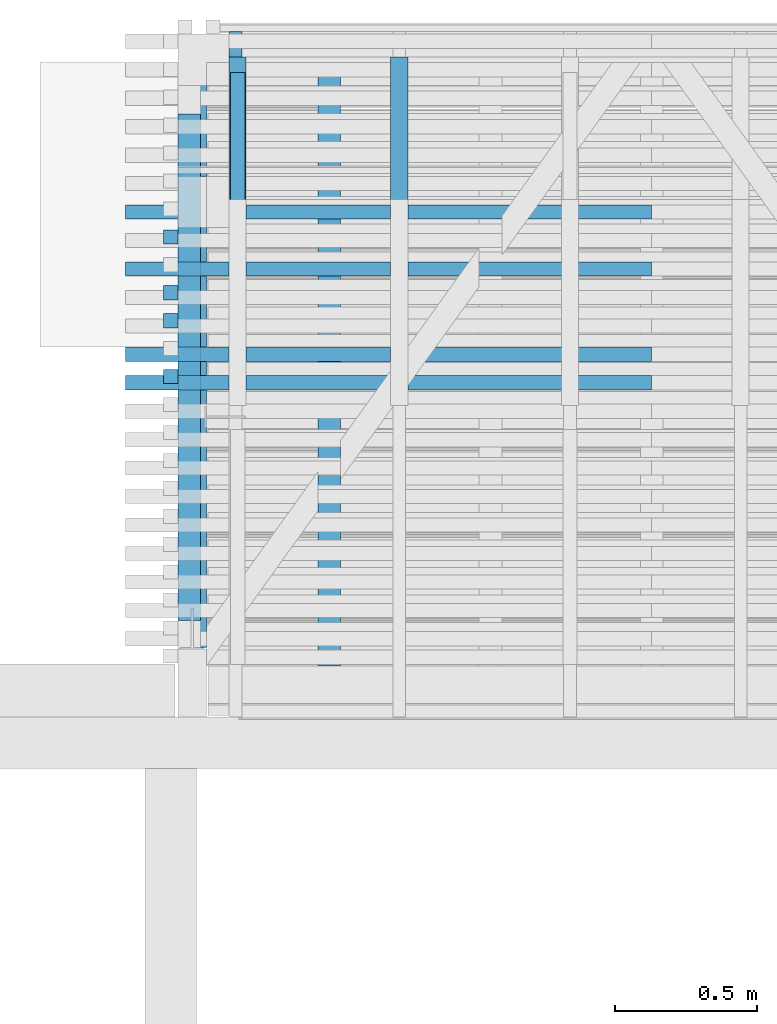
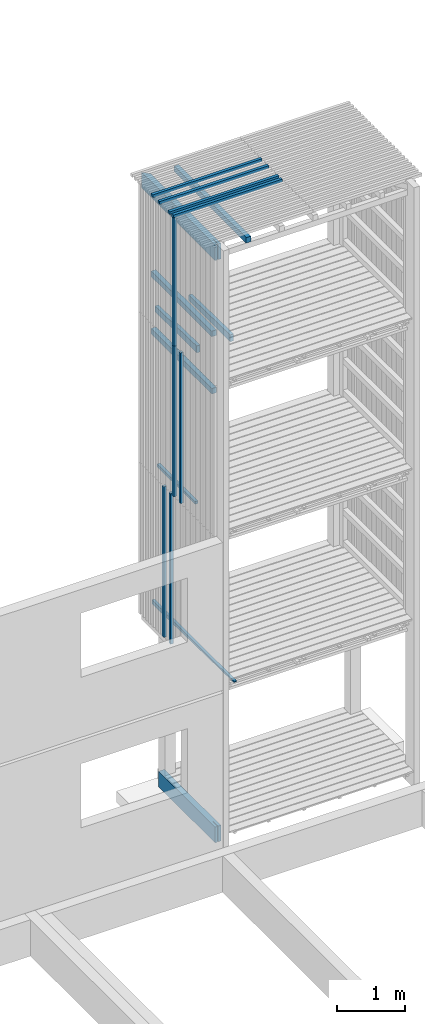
# One storey, part 62 of 182: 18 beams.
"""IFC2X3 building model written with IfcOpenShell, lengths in metres."""

from ifc_helpers import new_model, si_unit, frame, origin, place, context, project, spatial, faceted_brep, element, save


model = new_model("IFC2X3")

# Units and contexts
model_context = context("Model", 3, precision=1e-06, world=origin())
ifc_project = project(units=[si_unit("LENGTHUNIT", "METRE"), si_unit("PLANEANGLEUNIT", "RADIAN")], contexts=[model_context])

# Site, building, storey
site = spatial("IfcSite", under=ifc_project, CompositionType="ELEMENT")
building = spatial("IfcBuilding", under=site, CompositionType="ELEMENT")
storey = spatial("IfcBuildingStorey", under=building, Name="vs", CompositionType="ELEMENT", Elevation=-0.85)

# Beams
placement = place(None, origin())
beam_1_placement = place(placement, frame((23.25499999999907, 12.735077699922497, 5.217399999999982), z_axis=(0.0, 0.0, 1.0), x_axis=(0.0, -1.0, 0.0)))
element("IfcBeam", 1, at=beam_1_placement, inside=storey, Name="Calage", context=model_context, shape_type="Brep", body=[
    faceted_brep([(0.0, 0.025000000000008, -0.024999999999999), (0.0, -0.024999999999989, -0.024999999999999), (0.0, -0.024999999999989, 0.024999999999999), (0.0, 0.025000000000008, 0.024999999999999), (1.115000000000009, -0.024999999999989, 0.024999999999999), (1.115000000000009, -0.024999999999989, -0.024999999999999), (1.115000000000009, 0.025000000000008, -0.024999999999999), (1.115000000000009, 0.025000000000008, 0.024999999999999), (0.0, -0.024999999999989, 0.024999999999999), (0.0, -0.024999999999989, -0.024999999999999), (1.115000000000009, -0.024999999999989, -0.024999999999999), (1.115000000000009, -0.024999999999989, 0.024999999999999), (1.115000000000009, -0.024999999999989, -0.024999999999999), (0.0, -0.024999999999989, -0.024999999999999), (0.0, 0.025000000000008, -0.024999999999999), (1.115000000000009, 0.025000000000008, -0.024999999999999), (1.115000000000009, 0.025000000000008, -0.024999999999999), (0.0, 0.025000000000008, -0.024999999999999), (0.0, 0.025000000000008, 0.024999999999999), (1.115000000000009, 0.025000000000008, 0.024999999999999), (1.115000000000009, 0.025000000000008, 0.024999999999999), (0.0, 0.025000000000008, 0.024999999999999), (0.0, -0.024999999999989, 0.024999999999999), (1.115000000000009, -0.024999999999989, 0.024999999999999)], [[[0, 1, 2, 3]], [[4, 5, 6, 7]], [[8, 9, 10, 11]], [[12, 13, 14, 15]], [[16, 17, 18, 19]], [[20, 21, 22, 23]]]),
])
beam_2_placement = place(placement, frame((23.82299999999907, 11.565077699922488, 8.00424999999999), z_axis=(0.0, 0.0, 1.0), x_axis=(0.0, 1.0, 0.0)))
element("IfcBeam", 2, at=beam_2_placement, inside=storey, Name="Solive", context=model_context, shape_type="Brep", body=[
    faceted_brep([(0.0, -0.030000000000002, -0.061849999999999), (1.225000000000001, -0.030000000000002, -0.061849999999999), (1.225000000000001, -0.030000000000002, 0.037349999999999), (0.0, -0.030000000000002, 0.061849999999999), (0.0, 0.030000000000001, 0.061850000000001), (0.0, 0.030000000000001, -0.061849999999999), (0.0, -0.030000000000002, -0.061849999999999), (0.0, -0.030000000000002, 0.061849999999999), (0.0, -0.030000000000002, -0.061849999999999), (0.0, 0.030000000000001, -0.061849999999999), (1.225000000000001, 0.030000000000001, -0.061849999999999), (1.225000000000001, -0.030000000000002, -0.061849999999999), (1.225000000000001, 0.030000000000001, -0.061849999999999), (0.0, 0.030000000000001, -0.061849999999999), (0.0, 0.030000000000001, 0.061850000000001), (1.225000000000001, 0.030000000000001, 0.037349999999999), (1.225000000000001, -0.030000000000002, 0.037349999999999), (1.225000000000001, -0.030000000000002, -0.061849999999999), (1.225000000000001, 0.030000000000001, -0.061849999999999), (1.225000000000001, 0.030000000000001, 0.037349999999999), (0.0, -0.030000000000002, 0.061849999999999), (1.225000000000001, -0.030000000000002, 0.037349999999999), (1.225000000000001, 0.030000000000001, 0.037349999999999), (0.0, 0.030000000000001, 0.061850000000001)], [[[0, 1, 2, 3]], [[4, 5, 6, 7]], [[8, 9, 10, 11]], [[12, 13, 14, 15]], [[16, 17, 18, 19]], [[20, 21, 22, 23]]]),
])
beam_3_placement = place(placement, frame((23.576666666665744, 10.650077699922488, 10.404999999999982), z_axis=(0.0, 0.0, 1.0), x_axis=(0.0, 1.0, 0.0)))
element("IfcBeam", 3, at=beam_3_placement, inside=storey, Name="Support bardage", context=model_context, shape_type="Brep", body=[
    faceted_brep([(2.120000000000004, -0.039999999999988, 0.050000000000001), (2.120000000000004, 0.04000000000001, 0.050000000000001), (3e-15, 0.04000000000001, 0.050000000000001), (3e-15, -0.039999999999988, 0.050000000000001), (3e-15, 0.04000000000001, 0.050000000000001), (2.120000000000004, 0.04000000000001, 0.050000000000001), (2.120000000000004, 0.04000000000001, -0.050000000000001), (3e-15, 0.04000000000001, -0.050000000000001), (2.120000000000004, 0.04000000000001, 0.050000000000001), (2.120000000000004, -0.039999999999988, 0.050000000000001), (2.120000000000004, -0.039999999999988, -0.050000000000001), (2.120000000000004, 0.04000000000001, -0.050000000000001), (2.120000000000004, -0.039999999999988, -0.050000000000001), (2.120000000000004, -0.039999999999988, 0.050000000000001), (3e-15, -0.039999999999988, 0.050000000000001), (3e-15, -0.039999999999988, -0.050000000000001), (3e-15, 0.04000000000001, -0.050000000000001), (2.120000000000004, 0.04000000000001, -0.050000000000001), (2.120000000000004, -0.039999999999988, -0.050000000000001), (3e-15, -0.039999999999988, -0.050000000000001), (3e-15, 0.04000000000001, 0.050000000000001), (3e-15, 0.04000000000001, -0.050000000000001), (3e-15, -0.039999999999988, -0.050000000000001), (3e-15, -0.039999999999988, 0.050000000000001)], [[[0, 1, 2, 3]], [[4, 5, 6, 7]], [[8, 9, 10, 11]], [[12, 13, 14, 15]], [[16, 17, 18, 19]], [[20, 21, 22, 23]]]),
])
beam_4_placement = place(placement, frame((24.709999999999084, 11.745077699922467, 10.47999999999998), z_axis=(0.0, 0.0, 1.0), x_axis=(-1.0, 0.0, 0.0)))
element("IfcBeam", 4, at=beam_4_placement, inside=storey, Name="Bardage", context=model_context, shape_type="Brep", body=[
    faceted_brep([(1.850000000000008, -0.024999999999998, -0.024999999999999), (1.850000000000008, -0.024999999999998, 0.025000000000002), (-1e-15, -0.024999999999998, 0.025000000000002), (-1e-15, -0.024999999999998, -0.024999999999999), (1.850000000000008, -0.024999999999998, 0.025000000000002), (1.850000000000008, -0.024999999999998, -0.024999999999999), (1.850000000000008, 0.024999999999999, -0.024999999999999), (1.850000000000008, 0.024999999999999, 0.025000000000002), (1.850000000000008, 0.024999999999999, -0.024999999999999), (1.850000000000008, -0.024999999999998, -0.024999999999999), (-1e-15, -0.024999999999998, -0.024999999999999), (-1e-15, 0.024999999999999, -0.024999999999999), (1.850000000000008, 0.024999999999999, 0.025000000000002), (1.850000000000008, 0.024999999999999, -0.024999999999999), (-1e-15, 0.024999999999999, -0.024999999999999), (-1e-15, 0.024999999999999, 0.025000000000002), (-1e-15, -0.024999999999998, 0.025000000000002), (1.850000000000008, -0.024999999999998, 0.025000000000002), (1.850000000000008, 0.024999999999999, 0.025000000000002), (-1e-15, 0.024999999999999, 0.025000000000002), (-1e-15, -0.024999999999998, -0.024999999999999), (-1e-15, -0.024999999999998, 0.025000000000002), (-1e-15, 0.024999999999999, 0.025000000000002), (-1e-15, 0.024999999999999, -0.024999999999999)], [[[0, 1, 2, 3]], [[4, 5, 6, 7]], [[8, 9, 10, 11]], [[12, 13, 14, 15]], [[16, 17, 18, 19]], [[20, 21, 22, 23]]]),
])
beam_5_placement = place(placement, frame((23.24749999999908, 10.470077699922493, 2.684400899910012), z_axis=(0.0, 0.0, 1.0), x_axis=(0.0, 1.0, 0.0)))
element("IfcBeam", 5, at=beam_5_placement, inside=storey, Name="Calage", context=model_context, shape_type="Brep", body=[
    faceted_brep([(2.41000000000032, -0.022499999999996, -0.035599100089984), (0.0, -0.022499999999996, 0.012600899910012), (0.0, 0.022500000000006, 0.012600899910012), (2.41000000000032, 0.022500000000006, -0.035599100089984), (0.0, 0.022500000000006, 0.035599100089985), (0.0, 0.022500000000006, 0.012600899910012), (0.0, -0.022499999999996, 0.012600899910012), (0.0, -0.022499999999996, 0.035599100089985), (2.41000000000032, 0.022500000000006, -0.035599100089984), (0.0, 0.022500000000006, 0.012600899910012), (0.0, 0.022500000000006, 0.035599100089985), (2.41000000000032, 0.022500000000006, 0.035599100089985), (2.41000000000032, -0.022499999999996, 0.035599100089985), (0.0, -0.022499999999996, 0.035599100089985), (0.0, -0.022499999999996, 0.012600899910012), (2.41000000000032, -0.022499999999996, -0.035599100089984), (2.41000000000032, 0.022500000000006, 0.035599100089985), (0.0, 0.022500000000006, 0.035599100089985), (0.0, -0.022499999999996, 0.035599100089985), (2.41000000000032, -0.022499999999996, 0.035599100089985), (2.41000000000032, 0.022500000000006, -0.035599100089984), (2.41000000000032, 0.022500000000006, 0.035599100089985), (2.41000000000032, -0.022499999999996, 0.035599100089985), (2.41000000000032, -0.022499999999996, -0.035599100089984)], [[[0, 1, 2, 3]], [[4, 5, 6, 7]], [[8, 9, 10, 11]], [[12, 13, 14, 15]], [[16, 17, 18, 19]], [[20, 21, 22, 23]]]),
])
beam_6_placement = place(placement, frame((23.094999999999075, 10.715077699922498, 10.314999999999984), z_axis=(0.0, 0.0, 1.0), x_axis=(0.0, 1.0, 0.0)))
element("IfcBeam", 6, at=beam_6_placement, inside=storey, Name="Sommier", context=model_context, shape_type="Brep", body=[
    faceted_brep([(0.0, -0.004000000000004, 0.140000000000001), (0.0, -0.049999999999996, 0.140000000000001), (2.054999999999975, -0.049999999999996, 0.140000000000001), (2.154999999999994, 0.049999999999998, 0.140000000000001), (0.0, 0.049999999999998, 0.140000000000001), (0.0, 0.003999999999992, 0.140000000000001), (0.137, 0.003999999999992, 0.140000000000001), (0.137, -0.004000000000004, 0.140000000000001), (2.054999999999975, -0.049999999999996, -0.140000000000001), (2.054999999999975, -0.049999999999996, 0.140000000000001), (0.0, -0.049999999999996, 0.140000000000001), (0.0, -0.049999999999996, -0.140000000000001), (2.054999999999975, -0.049999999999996, 0.140000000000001), (2.054999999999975, -0.049999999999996, -0.140000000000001), (2.154999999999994, 0.049999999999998, -0.140000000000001), (2.154999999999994, 0.049999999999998, 0.140000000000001), (0.0, 0.049999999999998, 0.140000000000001), (2.154999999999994, 0.049999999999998, 0.140000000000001), (2.154999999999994, 0.049999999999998, -0.140000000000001), (0.0, 0.049999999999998, -0.140000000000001), (0.0, 0.003999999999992, -0.140000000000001), (0.0, 0.003999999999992, 0.140000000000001), (0.0, 0.049999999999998, 0.140000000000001), (0.0, 0.049999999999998, -0.140000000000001), (0.0, -0.049999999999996, 0.140000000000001), (0.0, -0.004000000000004, 0.140000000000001), (0.0, -0.004000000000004, -0.140000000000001), (0.0, -0.049999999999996, -0.140000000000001), (0.0, 0.049999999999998, -0.140000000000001), (2.154999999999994, 0.049999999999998, -0.140000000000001), (2.054999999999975, -0.049999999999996, -0.140000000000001), (0.0, -0.049999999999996, -0.140000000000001), (0.0, -0.004000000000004, -0.140000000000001), (0.137, -0.004000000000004, -0.140000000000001), (0.137, 0.003999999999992, -0.140000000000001), (0.0, 0.003999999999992, -0.140000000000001), (0.137, 0.003999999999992, -0.140000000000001), (0.137, -0.004000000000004, -0.140000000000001), (0.137, -0.004000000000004, 0.140000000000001), (0.137, 0.003999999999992, 0.140000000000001), (0.0, -0.004000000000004, 0.140000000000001), (0.137, -0.004000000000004, 0.140000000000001), (0.137, -0.004000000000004, -0.140000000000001), (0.0, -0.004000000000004, -0.140000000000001), (0.137, 0.003999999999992, 0.140000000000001), (0.0, 0.003999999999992, 0.140000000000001), (0.0, 0.003999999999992, -0.140000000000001), (0.137, 0.003999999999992, -0.140000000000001)], [[[0, 1, 2, 3, 4, 5, 6, 7]], [[8, 9, 10, 11]], [[12, 13, 14, 15]], [[16, 17, 18, 19]], [[20, 21, 22, 23]], [[24, 25, 26, 27]], [[28, 29, 30, 31, 32, 33, 34, 35]], [[36, 37, 38, 39]], [[40, 41, 42, 43]], [[44, 45, 46, 47]]]),
])
beam_7_placement = place(placement, frame((23.094999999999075, 10.715077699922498, -0.119999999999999), z_axis=(0.0, 0.0, 1.0), x_axis=(0.0, 1.0, 0.0)))
element("IfcBeam", 7, at=beam_7_placement, inside=storey, Name="Sommier", context=model_context, shape_type="Brep", body=[
    faceted_brep([(0.771999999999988, -0.045000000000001, 0.051399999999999), (0.847999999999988, -0.045000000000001, 0.051399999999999), (0.847999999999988, -0.049999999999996, 0.051399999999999), (0.771999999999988, -0.049999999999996, 0.051399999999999), (0.847999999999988, -0.045000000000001, -0.123600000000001), (0.847999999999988, -0.049999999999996, -0.123600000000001), (0.847999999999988, -0.049999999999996, 0.051399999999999), (0.847999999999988, -0.045000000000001, 0.051399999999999), (0.771999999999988, -0.049999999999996, -0.123600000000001), (0.771999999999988, -0.045000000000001, -0.123600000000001), (0.771999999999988, -0.045000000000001, 0.051399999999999), (0.771999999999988, -0.049999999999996, 0.051399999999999), (0.847999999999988, -0.049999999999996, -0.123600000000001), (0.847999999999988, -0.045000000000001, -0.123600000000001), (0.771999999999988, -0.045000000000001, -0.123600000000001), (0.771999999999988, -0.049999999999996, -0.123600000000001), (1.654999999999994, 0.049999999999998, 0.14), (1.654999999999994, -0.049999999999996, 0.14), (1.654999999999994, -0.049999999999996, -0.14), (1.654999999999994, 0.049999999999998, -0.14), (0.137, -0.00399999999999, 0.14), (0.0, -0.00399999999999, 0.14), (0.0, -0.049999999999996, 0.14), (1.654999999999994, -0.049999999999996, 0.14), (1.654999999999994, 0.049999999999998, 0.14), (0.0, 0.049999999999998, 0.14), (0.0, 0.004000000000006, 0.14), (0.137, 0.004000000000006, 0.14), (0.0, -0.049999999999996, -0.14), (1.654999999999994, -0.049999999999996, -0.14), (1.654999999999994, -0.049999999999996, 0.14), (0.0, -0.049999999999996, 0.14), (0.771999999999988, -0.049999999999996, 0.051399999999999), (0.847999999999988, -0.049999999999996, 0.051399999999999), (0.847999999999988, -0.049999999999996, -0.123600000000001), (0.771999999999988, -0.049999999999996, -0.123600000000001), (0.771999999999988, -0.045000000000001, 0.051399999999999), (0.771999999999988, -0.045000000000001, -0.123600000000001), (0.847999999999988, -0.045000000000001, -0.123600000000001), (0.847999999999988, -0.045000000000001, 0.051399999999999), (0.0, 0.049999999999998, 0.14), (1.654999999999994, 0.049999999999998, 0.14), (1.654999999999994, 0.049999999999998, -0.14), (0.0, 0.049999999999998, -0.14), (0.0, 0.004000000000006, -0.14), (0.0, 0.004000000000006, 0.14), (0.0, 0.049999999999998, 0.14), (0.0, 0.049999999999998, -0.14), (0.0, -0.049999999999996, 0.14), (0.0, -0.00399999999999, 0.14), (0.0, -0.00399999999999, -0.14), (0.0, -0.049999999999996, -0.14), (0.0, 0.004000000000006, -0.14), (0.0, 0.049999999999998, -0.14), (1.654999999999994, 0.049999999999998, -0.14), (1.654999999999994, -0.049999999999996, -0.14), (0.0, -0.049999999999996, -0.14), (0.0, -0.00399999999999, -0.14), (0.137, -0.00399999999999, -0.14), (0.137, 0.004000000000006, -0.14), (0.137, 0.004000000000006, -0.14), (0.137, -0.00399999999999, -0.14), (0.137, -0.00399999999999, 0.14), (0.137, 0.004000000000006, 0.14), (0.0, -0.00399999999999, 0.14), (0.137, -0.00399999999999, 0.14), (0.137, -0.00399999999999, -0.14), (0.0, -0.00399999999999, -0.14), (0.137, 0.004000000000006, 0.14), (0.0, 0.004000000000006, 0.14), (0.0, 0.004000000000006, -0.14), (0.137, 0.004000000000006, -0.14)], [[[0, 1, 2, 3]], [[4, 5, 6, 7]], [[8, 9, 10, 11]], [[12, 13, 14, 15]], [[16, 17, 18, 19]], [[20, 21, 22, 23, 24, 25, 26, 27]], [[28, 29, 30, 31], [32, 33, 34, 35]], [[36, 37, 38, 39]], [[40, 41, 42, 43]], [[44, 45, 46, 47]], [[48, 49, 50, 51]], [[52, 53, 54, 55, 56, 57, 58, 59]], [[60, 61, 62, 63]], [[64, 65, 66, 67]], [[68, 69, 70, 71]]]),
])
beam_8_placement = place(placement, frame((24.709999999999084, 12.245077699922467, 10.47999999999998), z_axis=(0.0, 0.0, 1.0), x_axis=(-1.0, 0.0, 0.0)))
element("IfcBeam", 8, at=beam_8_placement, inside=storey, Name="Bardage", context=model_context, shape_type="Brep", body=[
    faceted_brep([(1.850000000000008, -0.024999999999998, -0.024999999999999), (1.850000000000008, -0.024999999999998, 0.025000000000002), (-1e-15, -0.024999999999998, 0.025000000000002), (-1e-15, -0.024999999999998, -0.024999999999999), (1.850000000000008, -0.024999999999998, 0.025000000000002), (1.850000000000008, -0.024999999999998, -0.024999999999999), (1.850000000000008, 0.024999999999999, -0.024999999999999), (1.850000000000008, 0.024999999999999, 0.025000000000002), (1.850000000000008, 0.024999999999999, -0.024999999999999), (1.850000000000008, -0.024999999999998, -0.024999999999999), (-1e-15, -0.024999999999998, -0.024999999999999), (-1e-15, 0.024999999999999, -0.024999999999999), (1.850000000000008, 0.024999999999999, 0.025000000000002), (1.850000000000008, 0.024999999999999, -0.024999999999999), (-1e-15, 0.024999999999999, -0.024999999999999), (-1e-15, 0.024999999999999, 0.025000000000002), (-1e-15, -0.024999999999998, 0.025000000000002), (1.850000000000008, -0.024999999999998, 0.025000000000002), (1.850000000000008, 0.024999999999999, 0.025000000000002), (-1e-15, 0.024999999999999, 0.025000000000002), (-1e-15, -0.024999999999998, -0.024999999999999), (-1e-15, -0.024999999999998, 0.025000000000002), (-1e-15, 0.024999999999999, 0.025000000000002), (-1e-15, 0.024999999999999, -0.024999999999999)], [[[0, 1, 2, 3]], [[4, 5, 6, 7]], [[8, 9, 10, 11]], [[12, 13, 14, 15]], [[16, 17, 18, 19]], [[20, 21, 22, 23]]]),
])
beam_9_placement = place(placement, frame((24.709999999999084, 12.045077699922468, 10.47999999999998), z_axis=(0.0, 0.0, 1.0), x_axis=(-1.0, -2e-15, 0.0)))
element("IfcBeam", 9, at=beam_9_placement, inside=storey, Name="Bardage", context=model_context, shape_type="Brep", body=[
    faceted_brep([(1.850000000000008, -0.025000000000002, -0.024999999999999), (1.850000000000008, -0.025000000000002, 0.025000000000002), (-1e-15, -0.025000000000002, 0.025000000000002), (-1e-15, -0.025000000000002, -0.024999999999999), (1.850000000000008, -0.025000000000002, 0.025000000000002), (1.850000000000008, -0.025000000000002, -0.024999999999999), (1.850000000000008, 0.024999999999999, -0.024999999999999), (1.850000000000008, 0.024999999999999, 0.025000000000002), (1.850000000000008, 0.024999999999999, -0.024999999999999), (1.850000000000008, -0.025000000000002, -0.024999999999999), (-1e-15, -0.025000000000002, -0.024999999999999), (-1e-15, 0.025000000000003, -0.024999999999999), (1.850000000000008, 0.024999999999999, 0.025000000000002), (1.850000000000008, 0.024999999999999, -0.024999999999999), (-1e-15, 0.025000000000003, -0.024999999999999), (-1e-15, 0.025000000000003, 0.025000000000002), (-1e-15, -0.025000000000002, 0.025000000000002), (1.850000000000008, -0.025000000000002, 0.025000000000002), (1.850000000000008, 0.024999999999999, 0.025000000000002), (-1e-15, 0.025000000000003, 0.025000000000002), (-1e-15, -0.025000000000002, -0.024999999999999), (-1e-15, -0.025000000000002, 0.025000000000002), (-1e-15, 0.025000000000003, 0.025000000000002), (-1e-15, 0.025000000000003, -0.024999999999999)], [[[0, 1, 2, 3]], [[4, 5, 6, 7]], [[8, 9, 10, 11]], [[12, 13, 14, 15]], [[16, 17, 18, 19]], [[20, 21, 22, 23]]]),
])
beam_10_placement = place(placement, frame((24.709999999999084, 11.645077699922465, 10.47999999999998), z_axis=(0.0, 0.0, 1.0), x_axis=(-1.0, 0.0, 0.0)))
element("IfcBeam", 10, at=beam_10_placement, inside=storey, Name="Bardage", context=model_context, shape_type="Brep", body=[
    faceted_brep([(1.850000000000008, -0.024999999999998, -0.024999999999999), (1.850000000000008, -0.024999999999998, 0.025000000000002), (-1e-15, -0.025000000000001, 0.025000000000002), (-1e-15, -0.025000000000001, -0.024999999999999), (1.850000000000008, -0.024999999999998, 0.025000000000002), (1.850000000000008, -0.024999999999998, -0.024999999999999), (1.850000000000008, 0.024999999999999, -0.024999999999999), (1.850000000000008, 0.024999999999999, 0.025000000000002), (1.850000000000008, 0.024999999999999, -0.024999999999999), (1.850000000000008, -0.024999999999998, -0.024999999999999), (-1e-15, -0.025000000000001, -0.024999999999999), (-1e-15, 0.024999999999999, -0.024999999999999), (1.850000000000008, 0.024999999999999, 0.025000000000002), (1.850000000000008, 0.024999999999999, -0.024999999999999), (-1e-15, 0.024999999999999, -0.024999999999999), (-1e-15, 0.024999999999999, 0.025000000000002), (-1e-15, -0.025000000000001, 0.025000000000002), (1.850000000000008, -0.024999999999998, 0.025000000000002), (1.850000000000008, 0.024999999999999, 0.025000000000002), (-1e-15, 0.024999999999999, 0.025000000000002), (-1e-15, -0.025000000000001, -0.024999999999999), (-1e-15, -0.025000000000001, 0.025000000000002), (-1e-15, 0.024999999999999, 0.025000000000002), (-1e-15, 0.024999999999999, -0.024999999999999)], [[[0, 1, 2, 3]], [[4, 5, 6, 7]], [[8, 9, 10, 11]], [[12, 13, 14, 15]], [[16, 17, 18, 19]], [[20, 21, 22, 23]]]),
])
beam_11_placement = place(placement, frame((23.25499999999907, 11.565077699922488, 8.00424999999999), z_axis=(0.0, 0.0, 1.0), x_axis=(0.0, 1.0, 0.0)))
element("IfcBeam", 11, at=beam_11_placement, inside=storey, Name="Solive", context=model_context, shape_type="Brep", body=[
    faceted_brep([(0.0, -0.030000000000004, -0.061849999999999), (1.225000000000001, -0.030000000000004, -0.061849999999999), (1.225000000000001, -0.030000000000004, 0.037349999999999), (0.0, -0.030000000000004, 0.061849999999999), (0.0, 0.029999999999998, -0.061849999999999), (1.225000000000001, 0.029999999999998, -0.061849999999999), (1.225000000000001, -0.030000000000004, -0.061849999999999), (0.0, -0.030000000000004, -0.061849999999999), (0.0, 0.029999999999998, 0.061850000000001), (0.0, 0.029999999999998, -0.061849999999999), (0.0, -0.030000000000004, -0.061849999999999), (0.0, -0.030000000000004, 0.061849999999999), (1.225000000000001, 0.029999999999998, -0.061849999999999), (0.0, 0.029999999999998, -0.061849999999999), (0.0, 0.029999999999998, 0.061850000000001), (1.225000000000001, 0.029999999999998, 0.037349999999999), (1.225000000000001, -0.030000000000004, 0.037349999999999), (1.225000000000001, -0.030000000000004, -0.061849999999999), (1.225000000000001, 0.029999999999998, -0.061849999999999), (1.225000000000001, 0.029999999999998, 0.037349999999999), (0.0, -0.030000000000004, 0.061849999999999), (1.225000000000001, -0.030000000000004, 0.037349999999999), (1.225000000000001, 0.029999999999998, 0.037349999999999), (0.0, 0.029999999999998, 0.061850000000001)], [[[0, 1, 2, 3]], [[4, 5, 6, 7]], [[8, 9, 10, 11]], [[12, 13, 14, 15]], [[16, 17, 18, 19]], [[20, 21, 22, 23]]]),
])
beam_12_placement = place(placement, frame((23.019999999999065, 11.863259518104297, 5.274999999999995), z_axis=(1.0, 0.0, 0.0), x_axis=(0.0, 0.0, 1.0)))
element("IfcBeam", 12, at=beam_12_placement, inside=storey, Name="Bardage", context=model_context, shape_type="Brep", body=[
    faceted_brep([(2.699999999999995, 0.025000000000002, 0.025000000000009), (2.699999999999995, -0.024999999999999, 0.025000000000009), (2.699999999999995, -0.024999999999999, -0.025000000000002), (2.699999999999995, 0.025000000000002, -0.025000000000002), (1e-15, 0.025000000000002, 0.025000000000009), (2.699999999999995, 0.025000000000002, 0.025000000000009), (2.699999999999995, 0.025000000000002, -0.025000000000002), (1e-15, 0.025000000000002, -0.025000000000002), (1e-15, -0.024999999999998, 0.025000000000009), (1e-15, 0.025000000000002, 0.025000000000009), (1e-15, 0.025000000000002, -0.025000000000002), (1e-15, -0.024999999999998, -0.025000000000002), (1e-15, 0.025000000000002, 0.025000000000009), (1e-15, -0.024999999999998, 0.025000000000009), (2.699999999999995, -0.024999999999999, 0.025000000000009), (2.699999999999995, 0.025000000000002, 0.025000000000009), (1e-15, -0.024999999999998, 0.025000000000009), (1e-15, -0.024999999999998, -0.025000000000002), (2.699999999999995, -0.024999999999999, -0.025000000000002), (2.699999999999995, -0.024999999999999, 0.025000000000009), (1e-15, -0.024999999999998, -0.025000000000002), (1e-15, 0.025000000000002, -0.025000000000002), (2.699999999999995, 0.025000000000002, -0.025000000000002), (2.699999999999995, -0.024999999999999, -0.025000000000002)], [[[0, 1, 2, 3]], [[4, 5, 6, 7]], [[8, 9, 10, 11]], [[12, 13, 14, 15]], [[16, 17, 18, 19]], [[20, 21, 22, 23]]]),
])
beam_13_placement = place(placement, frame((23.019999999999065, 11.863259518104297, 7.974999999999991), z_axis=(1.0, 0.0, 0.0), x_axis=(0.0, 0.0, 1.0)))
element("IfcBeam", 13, at=beam_13_placement, inside=storey, Name="Bardage", context=model_context, shape_type="Brep", body=[
    faceted_brep([(0.0, -0.024999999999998, 0.025000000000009), (0.0, 0.025000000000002, 0.025000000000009), (0.0, 0.025000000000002, -0.025000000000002), (0.0, -0.024999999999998, -0.025000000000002), (2.479999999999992, 0.025000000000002, -0.025000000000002), (2.479999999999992, 0.025000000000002, 0.025000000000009), (2.479999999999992, -0.024999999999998, 0.025000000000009), (2.479999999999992, -0.024999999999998, -0.025000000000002), (0.0, 0.025000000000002, 0.025000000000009), (0.0, -0.024999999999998, 0.025000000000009), (2.479999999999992, -0.024999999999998, 0.025000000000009), (2.479999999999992, 0.025000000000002, 0.025000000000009), (0.0, 0.025000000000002, -0.025000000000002), (0.0, 0.025000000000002, 0.025000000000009), (2.479999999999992, 0.025000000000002, 0.025000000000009), (2.479999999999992, 0.025000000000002, -0.025000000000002), (0.0, -0.024999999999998, -0.025000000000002), (0.0, 0.025000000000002, -0.025000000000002), (2.479999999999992, 0.025000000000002, -0.025000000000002), (2.479999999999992, -0.024999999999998, -0.025000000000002), (2.479999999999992, -0.024999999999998, 0.025000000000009), (0.0, -0.024999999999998, 0.025000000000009), (0.0, -0.024999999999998, -0.025000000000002), (2.479999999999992, -0.024999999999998, -0.025000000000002)], [[[0, 1, 2, 3]], [[4, 5, 6, 7]], [[8, 9, 10, 11]], [[12, 13, 14, 15]], [[16, 17, 18, 19]], [[20, 21, 22, 23]]]),
])
beam_14_placement = place(placement, frame((23.019999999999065, 12.157804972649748, 2.575000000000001), z_axis=(1.0, 0.0, 0.0), x_axis=(0.0, 0.0, 1.0)))
element("IfcBeam", 14, at=beam_14_placement, inside=storey, Name="Bardage", context=model_context, shape_type="Brep", body=[
    faceted_brep([(2.699961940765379, -0.024999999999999, 0.025000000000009), (2.699961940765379, -0.024999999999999, -0.025000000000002), (2.699961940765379, 0.024999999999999, -0.025000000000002), (2.699961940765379, 0.024999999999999, 0.025000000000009), (0.0, -0.024999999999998, 0.025000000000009), (2.699961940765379, -0.024999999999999, 0.025000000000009), (2.699961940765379, 0.024999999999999, 0.025000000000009), (0.0, 0.024999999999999, 0.025000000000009), (0.0, -0.024999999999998, 0.025000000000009), (0.0, 0.024999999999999, 0.025000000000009), (0.0, 0.024999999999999, -0.025000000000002), (0.0, -0.024999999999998, -0.025000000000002), (0.0, -0.024999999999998, 0.025000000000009), (0.0, -0.024999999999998, -0.025000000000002), (2.699961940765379, -0.024999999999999, -0.025000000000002), (2.699961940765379, -0.024999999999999, 0.025000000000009), (0.0, -0.024999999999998, -0.025000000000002), (0.0, 0.024999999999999, -0.025000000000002), (2.699961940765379, 0.024999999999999, -0.025000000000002), (2.699961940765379, -0.024999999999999, -0.025000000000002), (0.0, 0.024999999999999, -0.025000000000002), (0.0, 0.024999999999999, 0.025000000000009), (2.699961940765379, 0.024999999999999, 0.025000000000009), (2.699961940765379, 0.024999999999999, -0.025000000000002)], [[[0, 1, 2, 3]], [[4, 5, 6, 7]], [[8, 9, 10, 11]], [[12, 13, 14, 15]], [[16, 17, 18, 19]], [[20, 21, 22, 23]]]),
])
beam_15_placement = place(placement, frame((23.08499999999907, 10.8100776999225, 8.80124999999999), z_axis=(0.0, 0.0, 1.0), x_axis=(0.0, 1.0, 0.0)))
element("IfcBeam", 15, at=beam_15_placement, inside=storey, Name="Support bardage", context=model_context, shape_type="Brep", body=[
    faceted_brep([(1.779999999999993, 0.039999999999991, -0.050000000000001), (1.779999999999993, 0.039999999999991, 0.050000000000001), (1.779999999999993, -0.040000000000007, 0.050000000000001), (1.779999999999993, -0.040000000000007, -0.050000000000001), (1.779999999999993, -0.040000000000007, 0.050000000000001), (1.779999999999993, 0.039999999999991, 0.050000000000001), (-4e-15, 0.039999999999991, 0.050000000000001), (-4e-15, -0.040000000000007, 0.050000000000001), (-4e-15, 0.039999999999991, 0.050000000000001), (1.779999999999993, 0.039999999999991, 0.050000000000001), (1.779999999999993, 0.039999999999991, -0.050000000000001), (-4e-15, 0.039999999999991, -0.050000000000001), (1.779999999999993, -0.040000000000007, -0.050000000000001), (1.779999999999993, -0.040000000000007, 0.050000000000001), (-4e-15, -0.040000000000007, 0.050000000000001), (-4e-15, -0.040000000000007, -0.050000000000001), (-4e-15, 0.039999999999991, -0.050000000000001), (1.779999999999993, 0.039999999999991, -0.050000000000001), (1.779999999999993, -0.040000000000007, -0.050000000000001), (-4e-15, -0.040000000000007, -0.050000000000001), (-4e-15, 0.039999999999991, 0.050000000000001), (-4e-15, 0.039999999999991, -0.050000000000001), (-4e-15, -0.040000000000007, -0.050000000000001), (-4e-15, -0.040000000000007, 0.050000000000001)], [[[0, 1, 2, 3]], [[4, 5, 6, 7]], [[8, 9, 10, 11]], [[12, 13, 14, 15]], [[16, 17, 18, 19]], [[20, 21, 22, 23]]]),
])
beam_16_placement = place(placement, frame((23.08499999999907, 10.8100776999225, 7.774999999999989), z_axis=(0.0, 0.0, 1.0), x_axis=(0.0, 1.0, 0.0)))
element("IfcBeam", 16, at=beam_16_placement, inside=storey, Name="Support bardage", context=model_context, shape_type="Brep", body=[
    faceted_brep([(1.779999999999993, 0.039999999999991, -0.050000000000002), (1.779999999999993, 0.039999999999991, 0.050000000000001), (1.779999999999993, -0.040000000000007, 0.050000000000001), (1.779999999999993, -0.040000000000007, -0.050000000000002), (1.779999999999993, -0.040000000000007, 0.050000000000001), (1.779999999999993, 0.039999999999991, 0.050000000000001), (-4e-15, 0.039999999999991, 0.050000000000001), (-4e-15, -0.040000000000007, 0.050000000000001), (-4e-15, 0.039999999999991, 0.050000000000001), (1.779999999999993, 0.039999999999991, 0.050000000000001), (1.779999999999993, 0.039999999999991, -0.050000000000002), (-4e-15, 0.039999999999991, -0.050000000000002), (1.779999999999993, -0.040000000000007, -0.050000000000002), (1.779999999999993, -0.040000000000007, 0.050000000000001), (-4e-15, -0.040000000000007, 0.050000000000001), (-4e-15, -0.040000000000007, -0.050000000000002), (-4e-15, 0.039999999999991, -0.050000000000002), (1.779999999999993, 0.039999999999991, -0.050000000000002), (1.779999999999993, -0.040000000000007, -0.050000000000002), (-4e-15, -0.040000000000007, -0.050000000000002), (-4e-15, 0.039999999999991, 0.050000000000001), (-4e-15, 0.039999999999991, -0.050000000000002), (-4e-15, -0.040000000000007, -0.050000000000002), (-4e-15, -0.040000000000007, 0.050000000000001)], [[[0, 1, 2, 3]], [[4, 5, 6, 7]], [[8, 9, 10, 11]], [[12, 13, 14, 15]], [[16, 17, 18, 19]], [[20, 21, 22, 23]]]),
])
beam_17_placement = place(placement, frame((23.019999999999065, 11.666895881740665, 5.274999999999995), z_axis=(1.0, 0.0, 0.0), x_axis=(0.0, 0.0, 1.0)))
element("IfcBeam", 17, at=beam_17_placement, inside=storey, Name="Bardage", context=model_context, shape_type="Brep", body=[
    faceted_brep([(2.699999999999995, 0.025000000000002, 0.025000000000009), (2.699999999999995, -0.024999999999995, 0.025000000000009), (2.699999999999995, -0.024999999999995, -0.025000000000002), (2.699999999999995, 0.025000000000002, -0.025000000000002), (1e-15, 0.025000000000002, 0.025000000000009), (2.699999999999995, 0.025000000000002, 0.025000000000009), (2.699999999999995, 0.025000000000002, -0.025000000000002), (1e-15, 0.025000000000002, -0.025000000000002), (1e-15, -0.024999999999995, 0.025000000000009), (1e-15, 0.025000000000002, 0.025000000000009), (1e-15, 0.025000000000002, -0.025000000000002), (1e-15, -0.024999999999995, -0.025000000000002), (1e-15, 0.025000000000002, 0.025000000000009), (1e-15, -0.024999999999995, 0.025000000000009), (2.699999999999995, -0.024999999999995, 0.025000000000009), (2.699999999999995, 0.025000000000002, 0.025000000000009), (1e-15, -0.024999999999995, 0.025000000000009), (1e-15, -0.024999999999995, -0.025000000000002), (2.699999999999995, -0.024999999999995, -0.025000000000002), (2.699999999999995, -0.024999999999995, 0.025000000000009), (1e-15, -0.024999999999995, -0.025000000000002), (1e-15, 0.025000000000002, -0.025000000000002), (2.699999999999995, 0.025000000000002, -0.025000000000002), (2.699999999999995, -0.024999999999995, -0.025000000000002)], [[[0, 1, 2, 3]], [[4, 5, 6, 7]], [[8, 9, 10, 11]], [[12, 13, 14, 15]], [[16, 17, 18, 19]], [[20, 21, 22, 23]]]),
])
beam_18_placement = place(placement, frame((23.019999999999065, 11.961441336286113, 2.575000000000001), z_axis=(1.0, 0.0, 0.0), x_axis=(0.0, 0.0, 1.0)))
element("IfcBeam", 18, at=beam_18_placement, inside=storey, Name="Bardage", context=model_context, shape_type="Brep", body=[
    faceted_brep([(2.699961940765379, -0.024999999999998, 0.025000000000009), (2.699961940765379, -0.024999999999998, -0.025000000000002), (2.699961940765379, 0.024999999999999, -0.025000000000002), (2.699961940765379, 0.024999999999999, 0.025000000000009), (0.0, -0.024999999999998, 0.025000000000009), (2.699961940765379, -0.024999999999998, 0.025000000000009), (2.699961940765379, 0.024999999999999, 0.025000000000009), (0.0, 0.024999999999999, 0.025000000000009), (0.0, -0.024999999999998, 0.025000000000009), (0.0, 0.024999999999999, 0.025000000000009), (0.0, 0.024999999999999, -0.025000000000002), (0.0, -0.024999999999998, -0.025000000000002), (0.0, -0.024999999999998, 0.025000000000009), (0.0, -0.024999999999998, -0.025000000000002), (2.699961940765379, -0.024999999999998, -0.025000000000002), (2.699961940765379, -0.024999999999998, 0.025000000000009), (0.0, -0.024999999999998, -0.025000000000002), (0.0, 0.024999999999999, -0.025000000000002), (2.699961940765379, 0.024999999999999, -0.025000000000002), (2.699961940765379, -0.024999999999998, -0.025000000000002), (0.0, 0.024999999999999, -0.025000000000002), (0.0, 0.024999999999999, 0.025000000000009), (2.699961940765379, 0.024999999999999, 0.025000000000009), (2.699961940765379, 0.024999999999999, -0.025000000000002)], [[[0, 1, 2, 3]], [[4, 5, 6, 7]], [[8, 9, 10, 11]], [[12, 13, 14, 15]], [[16, 17, 18, 19]], [[20, 21, 22, 23]]]),
])

save(model, "model.ifc")
